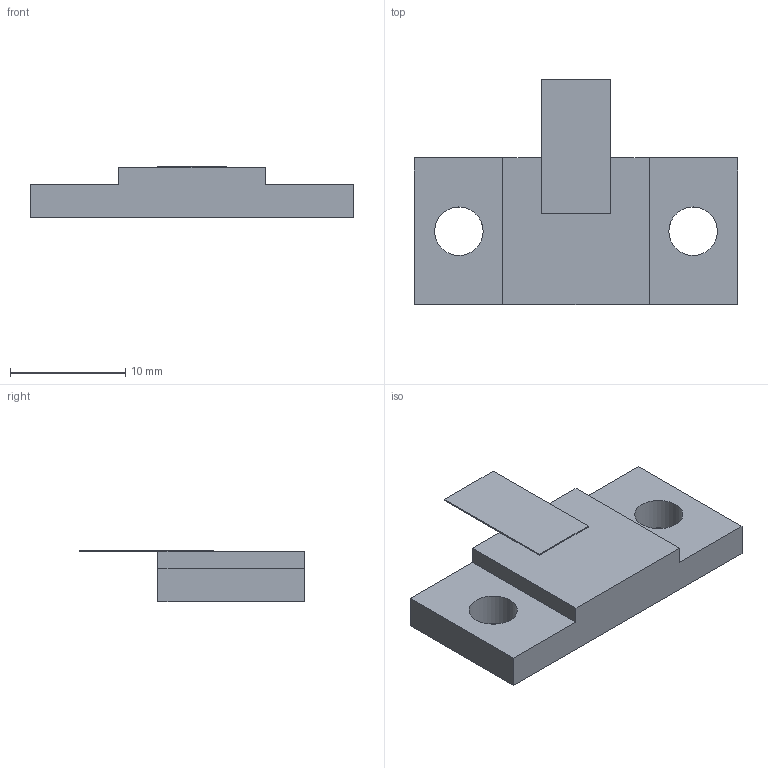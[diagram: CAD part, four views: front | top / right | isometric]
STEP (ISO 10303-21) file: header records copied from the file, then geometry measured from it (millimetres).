
FILE_DESCRIPTION(('STEP AP203'), '1');
FILE_NAME('Ð1-17-400', '', ('UNSPECIFIED'), ('UNSPECIFIED'), 'ASCON STEP Converter 1.6', 'ASCON Math Kernel', '');
FILE_SCHEMA(('CONFIG_CONTROL_DESIGN'));
Length unit declared in the file: millimetre
Bounding box: 28 x 19.5 x 4.5 mm (x, y, z)
Volume: 1199.6 mm3; surface area: 1139.1 mm2
Topology: 1 solids, 2 shells, 37 faces, 97 edges, 64 vertices
Faces by surface type: plane 31, cylinder 6
Full cylindrical faces by diameter (mm): 4.2 x2
Entity records: 1467 total; most frequent: CARTESIAN_POINT 197, ORIENTED_EDGE 190, DIRECTION 183, EDGE_CURVE 95, LINE 83, VECTOR 83, VERTEX_POINT 64, AXIS2_PLACEMENT_3D 50
